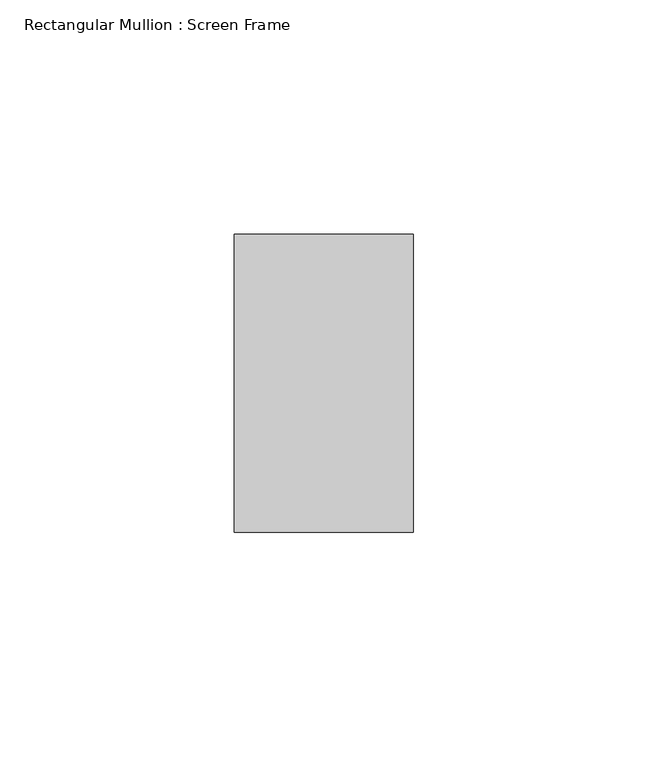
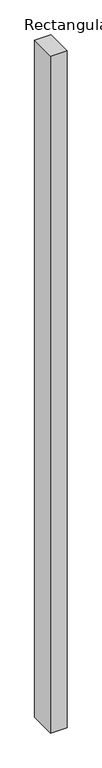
"""IFC4 building model written with IfcOpenShell, lengths in millimetres: member geometry, Rectangular Mullion : Screen Frame."""

from ifc_helpers import new_model, si_unit, frame, origin, place, context, project, spatial, polyline, outline, extrude, source, transform, mapped, element, save


def rectangular_mullion_screen_frame_23a45e78(model_context):
    return source(origin(), model_context, "Body", "SweptSolid", [
        extrude(outline(polyline([(0.0, 31.75), (0.0, -31.75), (-38.1, -31.75), (-38.1, 31.75), (0.0, 31.75)])), frame((0.0, 0.0, -1647.5891867), z_axis=(0.0, 0.0, 1.0), x_axis=(1.0, 0.0, 0.0)), (0.0, 0.0, 1.0), 1647.5891867),
    ])


if __name__ == "__main__":
    model = new_model("IFC4")
    model_context = context("Model", 3, world=origin())
    ifc_project = project(units=[si_unit("LENGTHUNIT", "METRE", prefix="MILLI")], contexts=[model_context])
    site = spatial("IfcSite", under=ifc_project)
    building = spatial("IfcBuilding", under=site)
    placement = place(None, origin())
    rectangular_mullion_screen_frame_shape = rectangular_mullion_screen_frame_23a45e78(model_context)
    element("IfcMember", 1, ObjectType="Rectangular Mullion : Screen Frame", at=placement, inside=building, context=model_context, shape_type="MappedRepresentation", body=[
        mapped(rectangular_mullion_screen_frame_shape, transform((0.0, 0.0, 0.0), x_axis=(1.0, 0.0, 0.0), y_axis=(0.0, 1.0, 0.0), z_axis=(0.0, 0.0, 1.0))),
    ])
    save(model, "model.ifc")
